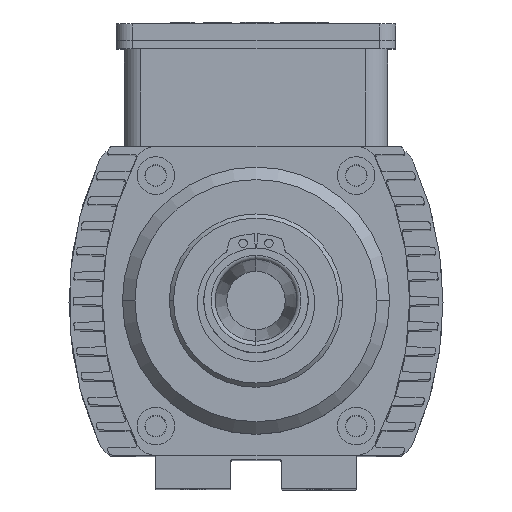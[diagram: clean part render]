
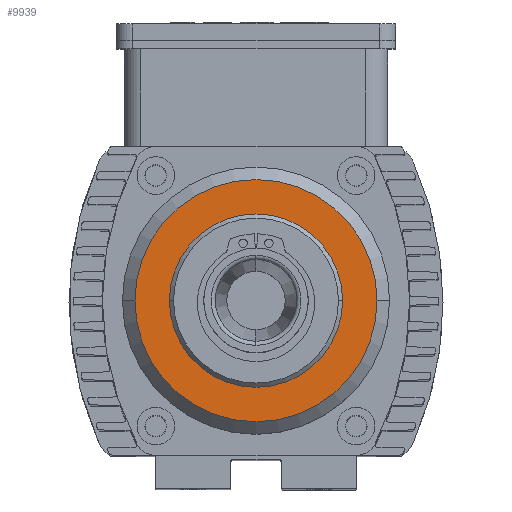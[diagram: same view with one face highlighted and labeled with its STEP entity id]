
A CAD part, top view. The second image highlights one B-rep face of the part: STEP entity #9939.
In plain terms, the highlighted planar face has unit normal (0, 0, 1).
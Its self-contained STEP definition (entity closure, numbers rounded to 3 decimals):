
#86 = ORIENTED_EDGE ( 'NONE', *, *, #21299, .T. ) ;
#470 = DIRECTION ( 'NONE',  ( 1., 0., 0. ) ) ;
#3142 = DIRECTION ( 'NONE',  ( 0., 0., 1. ) ) ;
#4114 = ORIENTED_EDGE ( 'NONE', *, *, #25336, .T. ) ;
#4745 = VERTEX_POINT ( 'NONE', #21086 ) ;
#5664 = DIRECTION ( 'NONE',  ( 1., 0., 0. ) ) ;
#6829 = FACE_OUTER_BOUND ( 'NONE', #20527, .T. ) ;
#7347 = CIRCLE ( 'NONE', #14036, 29. ) ;
#7519 = AXIS2_PLACEMENT_3D ( 'NONE', #11067, #8338, #5664 ) ;
#8338 = DIRECTION ( 'NONE',  ( 0., 0., 1. ) ) ;
#8766 = CARTESIAN_POINT ( 'NONE',  ( -30., 0., 18. ) ) ;
#9939 = ADVANCED_FACE ( 'NONE', ( #6829 ), #13749, .T. ) ;
#11067 = CARTESIAN_POINT ( 'NONE',  ( 0., 0., 18. ) ) ;
#13749 = PLANE ( 'NONE',  #7519 ) ;
#13910 = CARTESIAN_POINT ( 'NONE',  ( -1., 0., 18. ) ) ;
#14036 = AXIS2_PLACEMENT_3D ( 'NONE', #21003, #18354, #15715 ) ;
#14062 = CIRCLE ( 'NONE', #16903, 29. ) ;
#15715 = DIRECTION ( 'NONE',  ( 1., 0., 0. ) ) ;
#16903 = AXIS2_PLACEMENT_3D ( 'NONE', #13910, #3142, #470 ) ;
#18354 = DIRECTION ( 'NONE',  ( 0., 0., 1. ) ) ;
#20527 = EDGE_LOOP ( 'NONE', ( #4114, #86 ) ) ;
#21003 = CARTESIAN_POINT ( 'NONE',  ( -1., 0., 18. ) ) ;
#21086 = CARTESIAN_POINT ( 'NONE',  ( 28., 0., 18. ) ) ;
#21299 = EDGE_CURVE ( 'NONE', #4745, #23389, #7347, .T. ) ;
#23389 = VERTEX_POINT ( 'NONE', #8766 ) ;
#25336 = EDGE_CURVE ( 'NONE', #23389, #4745, #14062, .T. ) ;
